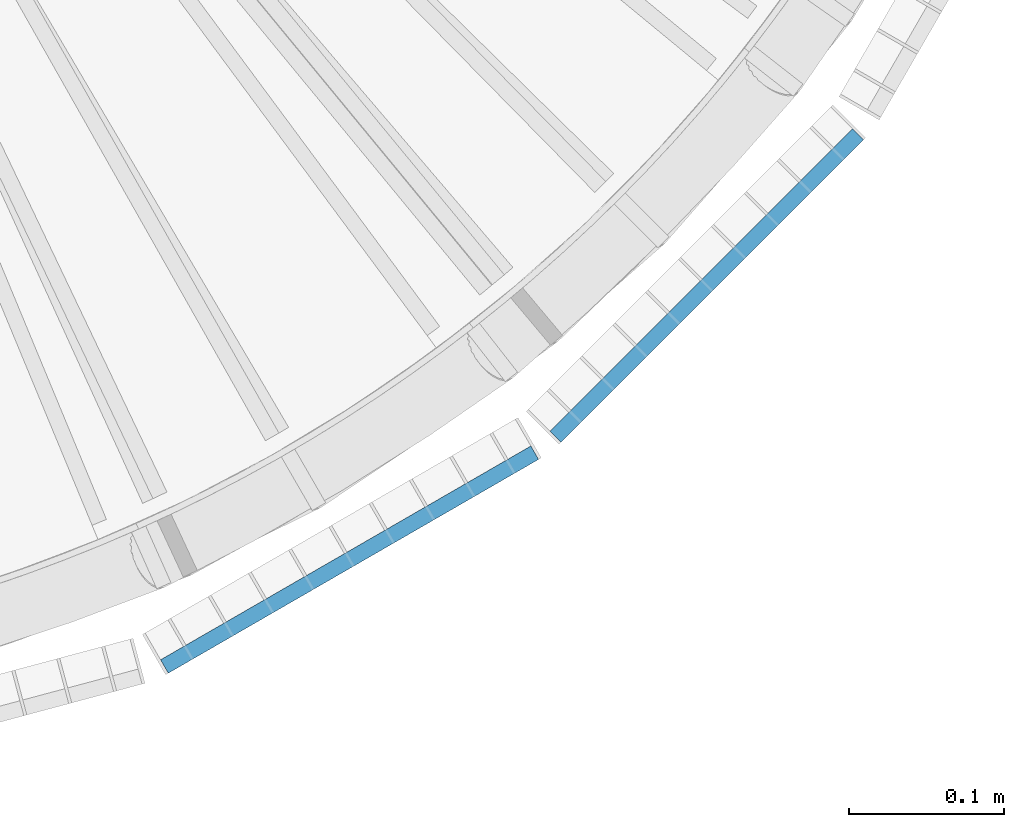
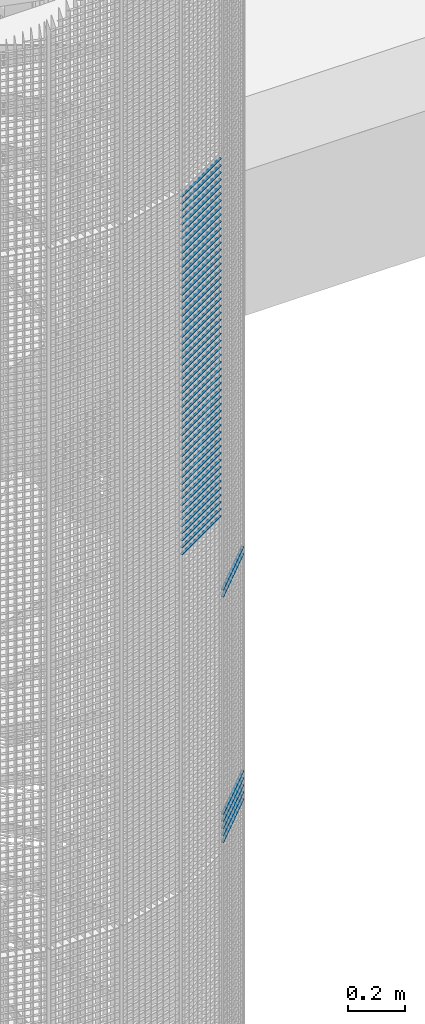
# One storey, part 255 of 1183: 59 beams, 2 elements without a shape of their own.
"""IFC2X3 building model written with IfcOpenShell, lengths in millimetres."""

from ifc_helpers import new_model, si_unit, frame, origin_with_axes, origin_2d_with_axis, place, context, subcontext, project, spatial, rectangle, extrude, material, type_object, element, aggregate, save


model = new_model("IFC2X3")

# Units and contexts
model_context = context("Model", 3, precision=1e-05, world=origin_with_axes())
body_context = subcontext(model_context, "Body", "Model", "MODEL_VIEW")
ifc_project = project(units=[si_unit("LENGTHUNIT", "METRE", prefix="MILLI"), si_unit("AREAUNIT", "SQUARE_METRE"), si_unit("VOLUMEUNIT", "CUBIC_METRE"), si_unit("MASSUNIT", "GRAM", prefix="KILO"), si_unit("TIMEUNIT", "SECOND"), si_unit("PLANEANGLEUNIT", "RADIAN"), si_unit("SOLIDANGLEUNIT", "STERADIAN"), si_unit("THERMODYNAMICTEMPERATUREUNIT", "DEGREE_CELSIUS"), si_unit("LUMINOUSINTENSITYUNIT", "LUMEN")], contexts=[model_context])

# Site, building, storey
site_placement = place(None, origin_with_axes())
site = spatial("IfcSite", under=ifc_project, at=site_placement, Name="Undefined", CompositionType="ELEMENT")
building_placement = place(site_placement, origin_with_axes())
building = spatial("IfcBuilding", under=site, at=building_placement, Name="Undefined", CompositionType="ELEMENT")
storey_placement = place(building_placement, origin_with_axes())
storey = spatial("IfcBuildingStorey", under=building, at=storey_placement, Name="Undefined", CompositionType="ELEMENT", Elevation=0.0)

# Assembly, beams
assembly_1_placement = place(storey_placement, origin_with_axes())
assembly_1 = element("IfcElementAssembly", 1, at=assembly_1_placement, inside=storey, Name="BORDURE", AssemblyPlace="NOTDEFINED", PredefinedType="NOTDEFINED")
ifc_material = material(Name="STEEL/S235JR")
beam_type = type_object("IfcBeamType", Name="PL2*10", PredefinedType="NOTDEFINED")
beam_1_placement = place(assembly_1_placement, frame((689.771348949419, -884.927168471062, 6150.0), z_axis=(0.707106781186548, -0.707106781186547, 0.0), x_axis=(0.707106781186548, 0.707106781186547, 0.0)))
beam_1 = element("IfcBeam", 2, at=beam_1_placement, type_object=beam_type, material=ifc_material, Name="ENTRETOISE", context=body_context, shape_type="SweptSolid", body=[
    extrude(rectangle(XDim=2.0, YDim=10.0, at=origin_2d_with_axis()), frame((275.999999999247, 9.09494701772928e-13, 1.53210777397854e-14), z_axis=(-1.0, 0.0, 0.0), x_axis=(0.0, -1.0, 0.0)), (0.0, 0.0, 1.0), 276.0),
])
beam_2_placement = place(assembly_1_placement, frame((689.771348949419, -884.927168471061, 6120.0), z_axis=(0.707106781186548, -0.707106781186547, 0.0), x_axis=(0.707106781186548, 0.707106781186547, 0.0)))
beam_2 = element("IfcBeam", 3, at=beam_2_placement, type_object=beam_type, material=ifc_material, Name="ENTRETOISE", context=body_context, shape_type="SweptSolid", body=[
    extrude(rectangle(XDim=2.0, YDim=10.0, at=origin_2d_with_axis()), frame((275.999999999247, 9.09494701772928e-13, 1.53210777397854e-14), z_axis=(-1.0, 0.0, 0.0), x_axis=(0.0, -1.0, 0.0)), (0.0, 0.0, 1.0), 276.0),
])
beam_3_placement = place(assembly_1_placement, frame((689.771348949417, -884.927168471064, 7080.0), z_axis=(0.707106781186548, -0.707106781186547, 0.0), x_axis=(0.707106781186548, 0.707106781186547, 0.0)))
beam_3 = element("IfcBeam", 4, at=beam_3_placement, type_object=beam_type, material=ifc_material, Name="ENTRETOISE", context=body_context, shape_type="SweptSolid", body=[
    extrude(rectangle(XDim=2.0, YDim=10.0, at=origin_2d_with_axis()), frame((275.999999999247, 9.09494701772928e-13, 1.53210777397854e-14), z_axis=(-1.0, 0.0, 0.0), x_axis=(0.0, -1.0, 0.0)), (0.0, 0.0, 1.0), 276.0),
])
beam_4_placement = place(assembly_1_placement, frame((689.771348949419, -884.927168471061, 6090.0), z_axis=(0.707106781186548, -0.707106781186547, 0.0), x_axis=(0.707106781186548, 0.707106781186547, 0.0)))
beam_4 = element("IfcBeam", 5, at=beam_4_placement, type_object=beam_type, material=ifc_material, Name="ENTRETOISE", context=body_context, shape_type="SweptSolid", body=[
    extrude(rectangle(XDim=2.0, YDim=10.0, at=origin_2d_with_axis()), frame((275.999999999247, 9.09494701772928e-13, 1.53210777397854e-14), z_axis=(-1.0, 0.0, 0.0), x_axis=(0.0, -1.0, 0.0)), (0.0, 0.0, 1.0), 276.0),
])
beam_5_placement = place(assembly_1_placement, frame((689.771348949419, -884.927168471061, 6060.0), z_axis=(0.707106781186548, -0.707106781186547, 0.0), x_axis=(0.707106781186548, 0.707106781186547, 0.0)))
beam_5 = element("IfcBeam", 6, at=beam_5_placement, type_object=beam_type, material=ifc_material, Name="ENTRETOISE", context=body_context, shape_type="SweptSolid", body=[
    extrude(rectangle(XDim=2.0, YDim=10.0, at=origin_2d_with_axis()), frame((275.999999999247, 9.09494701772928e-13, 1.53210777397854e-14), z_axis=(-1.0, 0.0, 0.0), x_axis=(0.0, -1.0, 0.0)), (0.0, 0.0, 1.0), 276.0),
])
beam_6_placement = place(assembly_1_placement, frame((689.771348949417, -884.927168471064, 7110.0), z_axis=(0.707106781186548, -0.707106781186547, 0.0), x_axis=(0.707106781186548, 0.707106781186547, 0.0)))
beam_6 = element("IfcBeam", 7, at=beam_6_placement, type_object=beam_type, material=ifc_material, Name="ENTRETOISE", context=body_context, shape_type="SweptSolid", body=[
    extrude(rectangle(XDim=2.0, YDim=10.0, at=origin_2d_with_axis()), frame((275.999999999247, 9.09494701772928e-13, 1.53210777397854e-14), z_axis=(-1.0, 0.0, 0.0), x_axis=(0.0, -1.0, 0.0)), (0.0, 0.0, 1.0), 276.0),
])
beam_7_placement = place(assembly_1_placement, frame((689.77134894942, -884.92716847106, 6030.0), z_axis=(0.707106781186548, -0.707106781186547, 0.0), x_axis=(0.707106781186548, 0.707106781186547, 0.0)))
beam_7 = element("IfcBeam", 8, at=beam_7_placement, type_object=beam_type, material=ifc_material, Name="ENTRETOISE", context=body_context, shape_type="SweptSolid", body=[
    extrude(rectangle(XDim=2.0, YDim=10.0, at=origin_2d_with_axis()), frame((275.999999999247, 9.09494701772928e-13, 1.53210777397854e-14), z_axis=(-1.0, 0.0, 0.0), x_axis=(0.0, -1.0, 0.0)), (0.0, 0.0, 1.0), 276.0),
])
aggregate(assembly_1, [beam_1, beam_2, beam_3, beam_4, beam_5, beam_6, beam_7])

assembly_2_placement = place(storey_placement, origin_with_axes())
assembly_2 = element("IfcElementAssembly", 9, at=assembly_2_placement, inside=storey, Name="BORDURE", AssemblyPlace="NOTDEFINED", PredefinedType="NOTDEFINED")
beam_8_placement = place(assembly_2_placement, frame((437.231955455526, -1033.29996828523, 8970.0), z_axis=(0.499999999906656, -0.866025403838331, 0.0), x_axis=(0.866025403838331, 0.499999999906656, 0.0)))
beam_8 = element("IfcBeam", 10, at=beam_8_placement, type_object=beam_type, material=ifc_material, Name="ENTRETOISE", context=body_context, shape_type="SweptSolid", body=[
    extrude(rectangle(XDim=2.0, YDim=10.0, at=origin_2d_with_axis()), frame((275.999999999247, 9.09494701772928e-13, 1.53210777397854e-14), z_axis=(-1.0, 0.0, 0.0), x_axis=(0.0, -1.0, 0.0)), (0.0, 0.0, 1.0), 276.0),
])
beam_9_placement = place(assembly_2_placement, frame((437.231955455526, -1033.29996828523, 8940.0), z_axis=(0.499999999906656, -0.866025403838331, 0.0), x_axis=(0.866025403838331, 0.499999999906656, 0.0)))
beam_9 = element("IfcBeam", 11, at=beam_9_placement, type_object=beam_type, material=ifc_material, Name="ENTRETOISE", context=body_context, shape_type="SweptSolid", body=[
    extrude(rectangle(XDim=2.0, YDim=10.0, at=origin_2d_with_axis()), frame((275.999999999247, 9.09494701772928e-13, 1.53210777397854e-14), z_axis=(-1.0, 0.0, 0.0), x_axis=(0.0, -1.0, 0.0)), (0.0, 0.0, 1.0), 276.0),
])
beam_10_placement = place(assembly_2_placement, frame((437.231955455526, -1033.29996828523, 8910.0), z_axis=(0.499999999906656, -0.866025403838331, 0.0), x_axis=(0.866025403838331, 0.499999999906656, 0.0)))
beam_10 = element("IfcBeam", 12, at=beam_10_placement, type_object=beam_type, material=ifc_material, Name="ENTRETOISE", context=body_context, shape_type="SweptSolid", body=[
    extrude(rectangle(XDim=2.0, YDim=10.0, at=origin_2d_with_axis()), frame((275.999999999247, 9.09494701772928e-13, 1.53210777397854e-14), z_axis=(-1.0, 0.0, 0.0), x_axis=(0.0, -1.0, 0.0)), (0.0, 0.0, 1.0), 276.0),
])
beam_11_placement = place(assembly_2_placement, frame((437.231955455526, -1033.29996828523, 8880.0), z_axis=(0.499999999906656, -0.866025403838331, 0.0), x_axis=(0.866025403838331, 0.499999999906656, 0.0)))
beam_11 = element("IfcBeam", 13, at=beam_11_placement, type_object=beam_type, material=ifc_material, Name="ENTRETOISE", context=body_context, shape_type="SweptSolid", body=[
    extrude(rectangle(XDim=2.0, YDim=10.0, at=origin_2d_with_axis()), frame((275.999999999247, 9.09494701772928e-13, 1.53210777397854e-14), z_axis=(-1.0, 0.0, 0.0), x_axis=(0.0, -1.0, 0.0)), (0.0, 0.0, 1.0), 276.0),
])
beam_12_placement = place(assembly_2_placement, frame((437.231955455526, -1033.29996828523, 8850.0), z_axis=(0.499999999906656, -0.866025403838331, 0.0), x_axis=(0.866025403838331, 0.499999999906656, 0.0)))
beam_12 = element("IfcBeam", 14, at=beam_12_placement, type_object=beam_type, material=ifc_material, Name="ENTRETOISE", context=body_context, shape_type="SweptSolid", body=[
    extrude(rectangle(XDim=2.0, YDim=10.0, at=origin_2d_with_axis()), frame((275.999999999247, 9.09494701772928e-13, 1.53210777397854e-14), z_axis=(-1.0, 0.0, 0.0), x_axis=(0.0, -1.0, 0.0)), (0.0, 0.0, 1.0), 276.0),
])
beam_13_placement = place(assembly_2_placement, frame((437.231955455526, -1033.29996828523, 8820.0), z_axis=(0.499999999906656, -0.866025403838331, 0.0), x_axis=(0.866025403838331, 0.499999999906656, 0.0)))
beam_13 = element("IfcBeam", 15, at=beam_13_placement, type_object=beam_type, material=ifc_material, Name="ENTRETOISE", context=body_context, shape_type="SweptSolid", body=[
    extrude(rectangle(XDim=2.0, YDim=10.0, at=origin_2d_with_axis()), frame((275.999999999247, 9.09494701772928e-13, 1.53210777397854e-14), z_axis=(-1.0, 0.0, 0.0), x_axis=(0.0, -1.0, 0.0)), (0.0, 0.0, 1.0), 276.0),
])
beam_14_placement = place(assembly_2_placement, frame((437.231955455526, -1033.29996828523, 8790.0), z_axis=(0.499999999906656, -0.866025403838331, 0.0), x_axis=(0.866025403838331, 0.499999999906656, 0.0)))
beam_14 = element("IfcBeam", 16, at=beam_14_placement, type_object=beam_type, material=ifc_material, Name="ENTRETOISE", context=body_context, shape_type="SweptSolid", body=[
    extrude(rectangle(XDim=2.0, YDim=10.0, at=origin_2d_with_axis()), frame((275.999999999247, 9.09494701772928e-13, 1.53210777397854e-14), z_axis=(-1.0, 0.0, 0.0), x_axis=(0.0, -1.0, 0.0)), (0.0, 0.0, 1.0), 276.0),
])
beam_15_placement = place(assembly_2_placement, frame((437.231955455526, -1033.29996828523, 8760.0), z_axis=(0.499999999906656, -0.866025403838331, 0.0), x_axis=(0.866025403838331, 0.499999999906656, 0.0)))
beam_15 = element("IfcBeam", 17, at=beam_15_placement, type_object=beam_type, material=ifc_material, Name="ENTRETOISE", context=body_context, shape_type="SweptSolid", body=[
    extrude(rectangle(XDim=2.0, YDim=10.0, at=origin_2d_with_axis()), frame((275.999999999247, 9.09494701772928e-13, 1.53210777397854e-14), z_axis=(-1.0, 0.0, 0.0), x_axis=(0.0, -1.0, 0.0)), (0.0, 0.0, 1.0), 276.0),
])
beam_16_placement = place(assembly_2_placement, frame((437.231955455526, -1033.29996828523, 8730.0), z_axis=(0.499999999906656, -0.866025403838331, 0.0), x_axis=(0.866025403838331, 0.499999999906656, 0.0)))
beam_16 = element("IfcBeam", 18, at=beam_16_placement, type_object=beam_type, material=ifc_material, Name="ENTRETOISE", context=body_context, shape_type="SweptSolid", body=[
    extrude(rectangle(XDim=2.0, YDim=10.0, at=origin_2d_with_axis()), frame((275.999999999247, 9.09494701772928e-13, 1.53210777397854e-14), z_axis=(-1.0, 0.0, 0.0), x_axis=(0.0, -1.0, 0.0)), (0.0, 0.0, 1.0), 276.0),
])
beam_17_placement = place(assembly_2_placement, frame((437.231955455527, -1033.29996828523, 8700.0), z_axis=(0.499999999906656, -0.866025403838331, 0.0), x_axis=(0.866025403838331, 0.499999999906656, 0.0)))
beam_17 = element("IfcBeam", 19, at=beam_17_placement, type_object=beam_type, material=ifc_material, Name="ENTRETOISE", context=body_context, shape_type="SweptSolid", body=[
    extrude(rectangle(XDim=2.0, YDim=10.0, at=origin_2d_with_axis()), frame((275.999999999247, 9.09494701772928e-13, 1.53210777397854e-14), z_axis=(-1.0, 0.0, 0.0), x_axis=(0.0, -1.0, 0.0)), (0.0, 0.0, 1.0), 276.0),
])
beam_18_placement = place(assembly_2_placement, frame((437.231955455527, -1033.29996828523, 8670.0), z_axis=(0.499999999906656, -0.866025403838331, 0.0), x_axis=(0.866025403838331, 0.499999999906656, 0.0)))
beam_18 = element("IfcBeam", 20, at=beam_18_placement, type_object=beam_type, material=ifc_material, Name="ENTRETOISE", context=body_context, shape_type="SweptSolid", body=[
    extrude(rectangle(XDim=2.0, YDim=10.0, at=origin_2d_with_axis()), frame((275.999999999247, 9.09494701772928e-13, 1.53210777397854e-14), z_axis=(-1.0, 0.0, 0.0), x_axis=(0.0, -1.0, 0.0)), (0.0, 0.0, 1.0), 276.0),
])
beam_19_placement = place(assembly_2_placement, frame((437.231955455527, -1033.29996828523, 8640.0), z_axis=(0.499999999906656, -0.866025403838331, 0.0), x_axis=(0.866025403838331, 0.499999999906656, 0.0)))
beam_19 = element("IfcBeam", 21, at=beam_19_placement, type_object=beam_type, material=ifc_material, Name="ENTRETOISE", context=body_context, shape_type="SweptSolid", body=[
    extrude(rectangle(XDim=2.0, YDim=10.0, at=origin_2d_with_axis()), frame((275.999999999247, 9.09494701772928e-13, 1.53210777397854e-14), z_axis=(-1.0, 0.0, 0.0), x_axis=(0.0, -1.0, 0.0)), (0.0, 0.0, 1.0), 276.0),
])
beam_20_placement = place(assembly_2_placement, frame((437.231955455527, -1033.29996828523, 8610.0), z_axis=(0.499999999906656, -0.866025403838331, 0.0), x_axis=(0.866025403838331, 0.499999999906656, 0.0)))
beam_20 = element("IfcBeam", 22, at=beam_20_placement, type_object=beam_type, material=ifc_material, Name="ENTRETOISE", context=body_context, shape_type="SweptSolid", body=[
    extrude(rectangle(XDim=2.0, YDim=10.0, at=origin_2d_with_axis()), frame((275.999999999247, 9.09494701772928e-13, 1.53210777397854e-14), z_axis=(-1.0, 0.0, 0.0), x_axis=(0.0, -1.0, 0.0)), (0.0, 0.0, 1.0), 276.0),
])
beam_21_placement = place(assembly_2_placement, frame((437.231955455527, -1033.29996828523, 8580.0), z_axis=(0.499999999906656, -0.866025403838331, 0.0), x_axis=(0.866025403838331, 0.499999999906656, 0.0)))
beam_21 = element("IfcBeam", 23, at=beam_21_placement, type_object=beam_type, material=ifc_material, Name="ENTRETOISE", context=body_context, shape_type="SweptSolid", body=[
    extrude(rectangle(XDim=2.0, YDim=10.0, at=origin_2d_with_axis()), frame((275.999999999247, 9.09494701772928e-13, 1.53210777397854e-14), z_axis=(-1.0, 0.0, 0.0), x_axis=(0.0, -1.0, 0.0)), (0.0, 0.0, 1.0), 276.0),
])
beam_22_placement = place(assembly_2_placement, frame((437.231955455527, -1033.29996828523, 8550.0), z_axis=(0.499999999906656, -0.866025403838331, 0.0), x_axis=(0.866025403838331, 0.499999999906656, 0.0)))
beam_22 = element("IfcBeam", 24, at=beam_22_placement, type_object=beam_type, material=ifc_material, Name="ENTRETOISE", context=body_context, shape_type="SweptSolid", body=[
    extrude(rectangle(XDim=2.0, YDim=10.0, at=origin_2d_with_axis()), frame((275.999999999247, 9.09494701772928e-13, 1.53210777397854e-14), z_axis=(-1.0, 0.0, 0.0), x_axis=(0.0, -1.0, 0.0)), (0.0, 0.0, 1.0), 276.0),
])
beam_23_placement = place(assembly_2_placement, frame((437.231955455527, -1033.29996828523, 8520.0), z_axis=(0.499999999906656, -0.866025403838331, 0.0), x_axis=(0.866025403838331, 0.499999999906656, 0.0)))
beam_23 = element("IfcBeam", 25, at=beam_23_placement, type_object=beam_type, material=ifc_material, Name="ENTRETOISE", context=body_context, shape_type="SweptSolid", body=[
    extrude(rectangle(XDim=2.0, YDim=10.0, at=origin_2d_with_axis()), frame((275.999999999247, 9.09494701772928e-13, 1.53210777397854e-14), z_axis=(-1.0, 0.0, 0.0), x_axis=(0.0, -1.0, 0.0)), (0.0, 0.0, 1.0), 276.0),
])
beam_24_placement = place(assembly_2_placement, frame((437.231955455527, -1033.29996828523, 8490.0), z_axis=(0.499999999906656, -0.866025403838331, 0.0), x_axis=(0.866025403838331, 0.499999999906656, 0.0)))
beam_24 = element("IfcBeam", 26, at=beam_24_placement, type_object=beam_type, material=ifc_material, Name="ENTRETOISE", context=body_context, shape_type="SweptSolid", body=[
    extrude(rectangle(XDim=2.0, YDim=10.0, at=origin_2d_with_axis()), frame((275.999999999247, 9.09494701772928e-13, 1.53210777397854e-14), z_axis=(-1.0, 0.0, 0.0), x_axis=(0.0, -1.0, 0.0)), (0.0, 0.0, 1.0), 276.0),
])
beam_25_placement = place(assembly_2_placement, frame((437.231955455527, -1033.29996828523, 8460.0), z_axis=(0.499999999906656, -0.866025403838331, 0.0), x_axis=(0.866025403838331, 0.499999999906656, 0.0)))
beam_25 = element("IfcBeam", 27, at=beam_25_placement, type_object=beam_type, material=ifc_material, Name="ENTRETOISE", context=body_context, shape_type="SweptSolid", body=[
    extrude(rectangle(XDim=2.0, YDim=10.0, at=origin_2d_with_axis()), frame((275.999999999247, 9.09494701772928e-13, 1.53210777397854e-14), z_axis=(-1.0, 0.0, 0.0), x_axis=(0.0, -1.0, 0.0)), (0.0, 0.0, 1.0), 276.0),
])
beam_26_placement = place(assembly_2_placement, frame((437.231955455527, -1033.29996828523, 8430.0), z_axis=(0.499999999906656, -0.866025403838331, 0.0), x_axis=(0.866025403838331, 0.499999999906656, 0.0)))
beam_26 = element("IfcBeam", 28, at=beam_26_placement, type_object=beam_type, material=ifc_material, Name="ENTRETOISE", context=body_context, shape_type="SweptSolid", body=[
    extrude(rectangle(XDim=2.0, YDim=10.0, at=origin_2d_with_axis()), frame((275.999999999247, 9.09494701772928e-13, 1.53210777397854e-14), z_axis=(-1.0, 0.0, 0.0), x_axis=(0.0, -1.0, 0.0)), (0.0, 0.0, 1.0), 276.0),
])
beam_27_placement = place(assembly_2_placement, frame((437.231955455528, -1033.29996828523, 8400.0), z_axis=(0.499999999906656, -0.866025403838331, 0.0), x_axis=(0.866025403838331, 0.499999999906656, 0.0)))
beam_27 = element("IfcBeam", 29, at=beam_27_placement, type_object=beam_type, material=ifc_material, Name="ENTRETOISE", context=body_context, shape_type="SweptSolid", body=[
    extrude(rectangle(XDim=2.0, YDim=10.0, at=origin_2d_with_axis()), frame((275.999999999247, 9.09494701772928e-13, 1.53210777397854e-14), z_axis=(-1.0, 0.0, 0.0), x_axis=(0.0, -1.0, 0.0)), (0.0, 0.0, 1.0), 276.0),
])
beam_28_placement = place(assembly_2_placement, frame((437.231955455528, -1033.29996828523, 8370.0), z_axis=(0.499999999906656, -0.866025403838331, 0.0), x_axis=(0.866025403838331, 0.499999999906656, 0.0)))
beam_28 = element("IfcBeam", 30, at=beam_28_placement, type_object=beam_type, material=ifc_material, Name="ENTRETOISE", context=body_context, shape_type="SweptSolid", body=[
    extrude(rectangle(XDim=2.0, YDim=10.0, at=origin_2d_with_axis()), frame((275.999999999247, 9.09494701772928e-13, 1.53210777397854e-14), z_axis=(-1.0, 0.0, 0.0), x_axis=(0.0, -1.0, 0.0)), (0.0, 0.0, 1.0), 276.0),
])
beam_29_placement = place(assembly_2_placement, frame((437.231955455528, -1033.29996828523, 8340.0), z_axis=(0.499999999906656, -0.866025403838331, 0.0), x_axis=(0.866025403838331, 0.499999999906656, 0.0)))
beam_29 = element("IfcBeam", 31, at=beam_29_placement, type_object=beam_type, material=ifc_material, Name="ENTRETOISE", context=body_context, shape_type="SweptSolid", body=[
    extrude(rectangle(XDim=2.0, YDim=10.0, at=origin_2d_with_axis()), frame((275.999999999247, 9.09494701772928e-13, 1.53210777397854e-14), z_axis=(-1.0, 0.0, 0.0), x_axis=(0.0, -1.0, 0.0)), (0.0, 0.0, 1.0), 276.0),
])
beam_30_placement = place(assembly_2_placement, frame((437.231955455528, -1033.29996828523, 8310.0), z_axis=(0.499999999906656, -0.866025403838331, 0.0), x_axis=(0.866025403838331, 0.499999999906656, 0.0)))
beam_30 = element("IfcBeam", 32, at=beam_30_placement, type_object=beam_type, material=ifc_material, Name="ENTRETOISE", context=body_context, shape_type="SweptSolid", body=[
    extrude(rectangle(XDim=2.0, YDim=10.0, at=origin_2d_with_axis()), frame((275.999999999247, 9.09494701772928e-13, 1.53210777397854e-14), z_axis=(-1.0, 0.0, 0.0), x_axis=(0.0, -1.0, 0.0)), (0.0, 0.0, 1.0), 276.0),
])
beam_31_placement = place(assembly_2_placement, frame((437.231955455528, -1033.29996828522, 8280.0), z_axis=(0.499999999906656, -0.866025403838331, 0.0), x_axis=(0.866025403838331, 0.499999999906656, 0.0)))
beam_31 = element("IfcBeam", 33, at=beam_31_placement, type_object=beam_type, material=ifc_material, Name="ENTRETOISE", context=body_context, shape_type="SweptSolid", body=[
    extrude(rectangle(XDim=2.0, YDim=10.0, at=origin_2d_with_axis()), frame((275.999999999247, 9.09494701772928e-13, 1.53210777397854e-14), z_axis=(-1.0, 0.0, 0.0), x_axis=(0.0, -1.0, 0.0)), (0.0, 0.0, 1.0), 276.0),
])
beam_32_placement = place(assembly_2_placement, frame((437.231955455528, -1033.29996828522, 8250.0), z_axis=(0.499999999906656, -0.866025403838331, 0.0), x_axis=(0.866025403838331, 0.499999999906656, 0.0)))
beam_32 = element("IfcBeam", 34, at=beam_32_placement, type_object=beam_type, material=ifc_material, Name="ENTRETOISE", context=body_context, shape_type="SweptSolid", body=[
    extrude(rectangle(XDim=2.0, YDim=10.0, at=origin_2d_with_axis()), frame((275.999999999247, 9.09494701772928e-13, 1.53210777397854e-14), z_axis=(-1.0, 0.0, 0.0), x_axis=(0.0, -1.0, 0.0)), (0.0, 0.0, 1.0), 276.0),
])
beam_33_placement = place(assembly_2_placement, frame((437.231955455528, -1033.29996828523, 8220.0), z_axis=(0.499999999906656, -0.866025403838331, 0.0), x_axis=(0.866025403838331, 0.499999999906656, 0.0)))
beam_33 = element("IfcBeam", 35, at=beam_33_placement, type_object=beam_type, material=ifc_material, Name="ENTRETOISE", context=body_context, shape_type="SweptSolid", body=[
    extrude(rectangle(XDim=2.0, YDim=10.0, at=origin_2d_with_axis()), frame((275.999999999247, 9.09494701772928e-13, 1.53210777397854e-14), z_axis=(-1.0, 0.0, 0.0), x_axis=(0.0, -1.0, 0.0)), (0.0, 0.0, 1.0), 276.0),
])
beam_34_placement = place(assembly_2_placement, frame((437.231955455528, -1033.29996828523, 8190.0), z_axis=(0.499999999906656, -0.866025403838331, 0.0), x_axis=(0.866025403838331, 0.499999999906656, 0.0)))
beam_34 = element("IfcBeam", 36, at=beam_34_placement, type_object=beam_type, material=ifc_material, Name="ENTRETOISE", context=body_context, shape_type="SweptSolid", body=[
    extrude(rectangle(XDim=2.0, YDim=10.0, at=origin_2d_with_axis()), frame((275.999999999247, 9.09494701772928e-13, 1.53210777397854e-14), z_axis=(-1.0, 0.0, 0.0), x_axis=(0.0, -1.0, 0.0)), (0.0, 0.0, 1.0), 276.0),
])
beam_35_placement = place(assembly_2_placement, frame((437.231955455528, -1033.29996828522, 8160.0), z_axis=(0.499999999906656, -0.866025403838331, 0.0), x_axis=(0.866025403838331, 0.499999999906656, 0.0)))
beam_35 = element("IfcBeam", 37, at=beam_35_placement, type_object=beam_type, material=ifc_material, Name="ENTRETOISE", context=body_context, shape_type="SweptSolid", body=[
    extrude(rectangle(XDim=2.0, YDim=10.0, at=origin_2d_with_axis()), frame((275.999999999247, 9.09494701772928e-13, 1.53210777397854e-14), z_axis=(-1.0, 0.0, 0.0), x_axis=(0.0, -1.0, 0.0)), (0.0, 0.0, 1.0), 276.0),
])
beam_36_placement = place(assembly_2_placement, frame((437.231955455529, -1033.29996828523, 8130.0), z_axis=(0.499999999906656, -0.866025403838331, 0.0), x_axis=(0.866025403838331, 0.499999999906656, 0.0)))
beam_36 = element("IfcBeam", 38, at=beam_36_placement, type_object=beam_type, material=ifc_material, Name="ENTRETOISE", context=body_context, shape_type="SweptSolid", body=[
    extrude(rectangle(XDim=2.0, YDim=10.0, at=origin_2d_with_axis()), frame((275.999999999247, 9.09494701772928e-13, 1.53210777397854e-14), z_axis=(-1.0, 0.0, 0.0), x_axis=(0.0, -1.0, 0.0)), (0.0, 0.0, 1.0), 276.0),
])
beam_37_placement = place(assembly_2_placement, frame((437.231955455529, -1033.29996828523, 8100.0), z_axis=(0.499999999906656, -0.866025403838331, 0.0), x_axis=(0.866025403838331, 0.499999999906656, 0.0)))
beam_37 = element("IfcBeam", 39, at=beam_37_placement, type_object=beam_type, material=ifc_material, Name="ENTRETOISE", context=body_context, shape_type="SweptSolid", body=[
    extrude(rectangle(XDim=2.0, YDim=10.0, at=origin_2d_with_axis()), frame((275.999999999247, 9.09494701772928e-13, 1.53210777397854e-14), z_axis=(-1.0, 0.0, 0.0), x_axis=(0.0, -1.0, 0.0)), (0.0, 0.0, 1.0), 276.0),
])
beam_38_placement = place(assembly_2_placement, frame((437.231955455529, -1033.29996828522, 8070.0), z_axis=(0.499999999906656, -0.866025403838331, 0.0), x_axis=(0.866025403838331, 0.499999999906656, 0.0)))
beam_38 = element("IfcBeam", 40, at=beam_38_placement, type_object=beam_type, material=ifc_material, Name="ENTRETOISE", context=body_context, shape_type="SweptSolid", body=[
    extrude(rectangle(XDim=2.0, YDim=10.0, at=origin_2d_with_axis()), frame((275.999999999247, 9.09494701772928e-13, 1.53210777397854e-14), z_axis=(-1.0, 0.0, 0.0), x_axis=(0.0, -1.0, 0.0)), (0.0, 0.0, 1.0), 276.0),
])
beam_39_placement = place(assembly_2_placement, frame((437.231955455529, -1033.29996828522, 8040.0), z_axis=(0.499999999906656, -0.866025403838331, 0.0), x_axis=(0.866025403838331, 0.499999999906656, 0.0)))
beam_39 = element("IfcBeam", 41, at=beam_39_placement, type_object=beam_type, material=ifc_material, Name="ENTRETOISE", context=body_context, shape_type="SweptSolid", body=[
    extrude(rectangle(XDim=2.0, YDim=10.0, at=origin_2d_with_axis()), frame((275.999999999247, 9.09494701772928e-13, 1.53210777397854e-14), z_axis=(-1.0, 0.0, 0.0), x_axis=(0.0, -1.0, 0.0)), (0.0, 0.0, 1.0), 276.0),
])
beam_40_placement = place(assembly_2_placement, frame((437.231955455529, -1033.29996828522, 8010.0), z_axis=(0.499999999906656, -0.866025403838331, 0.0), x_axis=(0.866025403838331, 0.499999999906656, 0.0)))
beam_40 = element("IfcBeam", 42, at=beam_40_placement, type_object=beam_type, material=ifc_material, Name="ENTRETOISE", context=body_context, shape_type="SweptSolid", body=[
    extrude(rectangle(XDim=2.0, YDim=10.0, at=origin_2d_with_axis()), frame((275.999999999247, 9.09494701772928e-13, 1.53210777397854e-14), z_axis=(-1.0, 0.0, 0.0), x_axis=(0.0, -1.0, 0.0)), (0.0, 0.0, 1.0), 276.0),
])
beam_41_placement = place(assembly_2_placement, frame((437.231955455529, -1033.29996828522, 7980.0), z_axis=(0.499999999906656, -0.866025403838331, 0.0), x_axis=(0.866025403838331, 0.499999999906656, 0.0)))
beam_41 = element("IfcBeam", 43, at=beam_41_placement, type_object=beam_type, material=ifc_material, Name="ENTRETOISE", context=body_context, shape_type="SweptSolid", body=[
    extrude(rectangle(XDim=2.0, YDim=10.0, at=origin_2d_with_axis()), frame((275.999999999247, 9.09494701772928e-13, 1.53210777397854e-14), z_axis=(-1.0, 0.0, 0.0), x_axis=(0.0, -1.0, 0.0)), (0.0, 0.0, 1.0), 276.0),
])
beam_42_placement = place(assembly_2_placement, frame((437.231955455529, -1033.29996828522, 7950.0), z_axis=(0.499999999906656, -0.866025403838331, 0.0), x_axis=(0.866025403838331, 0.499999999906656, 0.0)))
beam_42 = element("IfcBeam", 44, at=beam_42_placement, type_object=beam_type, material=ifc_material, Name="ENTRETOISE", context=body_context, shape_type="SweptSolid", body=[
    extrude(rectangle(XDim=2.0, YDim=10.0, at=origin_2d_with_axis()), frame((275.999999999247, 9.09494701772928e-13, 1.53210777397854e-14), z_axis=(-1.0, 0.0, 0.0), x_axis=(0.0, -1.0, 0.0)), (0.0, 0.0, 1.0), 276.0),
])
beam_43_placement = place(assembly_2_placement, frame((437.231955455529, -1033.29996828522, 7920.0), z_axis=(0.499999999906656, -0.866025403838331, 0.0), x_axis=(0.866025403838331, 0.499999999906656, 0.0)))
beam_43 = element("IfcBeam", 45, at=beam_43_placement, type_object=beam_type, material=ifc_material, Name="ENTRETOISE", context=body_context, shape_type="SweptSolid", body=[
    extrude(rectangle(XDim=2.0, YDim=10.0, at=origin_2d_with_axis()), frame((275.999999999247, 9.09494701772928e-13, 1.53210777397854e-14), z_axis=(-1.0, 0.0, 0.0), x_axis=(0.0, -1.0, 0.0)), (0.0, 0.0, 1.0), 276.0),
])
beam_44_placement = place(assembly_2_placement, frame((437.231955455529, -1033.29996828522, 7890.0), z_axis=(0.499999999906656, -0.866025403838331, 0.0), x_axis=(0.866025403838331, 0.499999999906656, 0.0)))
beam_44 = element("IfcBeam", 46, at=beam_44_placement, type_object=beam_type, material=ifc_material, Name="ENTRETOISE", context=body_context, shape_type="SweptSolid", body=[
    extrude(rectangle(XDim=2.0, YDim=10.0, at=origin_2d_with_axis()), frame((275.999999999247, 9.09494701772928e-13, 1.53210777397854e-14), z_axis=(-1.0, 0.0, 0.0), x_axis=(0.0, -1.0, 0.0)), (0.0, 0.0, 1.0), 276.0),
])
beam_45_placement = place(assembly_2_placement, frame((437.231955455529, -1033.29996828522, 7860.0), z_axis=(0.499999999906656, -0.866025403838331, 0.0), x_axis=(0.866025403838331, 0.499999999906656, 0.0)))
beam_45 = element("IfcBeam", 47, at=beam_45_placement, type_object=beam_type, material=ifc_material, Name="ENTRETOISE", context=body_context, shape_type="SweptSolid", body=[
    extrude(rectangle(XDim=2.0, YDim=10.0, at=origin_2d_with_axis()), frame((275.999999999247, 9.09494701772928e-13, 1.53210777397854e-14), z_axis=(-1.0, 0.0, 0.0), x_axis=(0.0, -1.0, 0.0)), (0.0, 0.0, 1.0), 276.0),
])
beam_46_placement = place(assembly_2_placement, frame((437.231955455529, -1033.29996828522, 7830.0), z_axis=(0.499999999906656, -0.866025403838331, 0.0), x_axis=(0.866025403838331, 0.499999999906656, 0.0)))
beam_46 = element("IfcBeam", 48, at=beam_46_placement, type_object=beam_type, material=ifc_material, Name="ENTRETOISE", context=body_context, shape_type="SweptSolid", body=[
    extrude(rectangle(XDim=2.0, YDim=10.0, at=origin_2d_with_axis()), frame((275.999999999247, 9.09494701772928e-13, 1.53210777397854e-14), z_axis=(-1.0, 0.0, 0.0), x_axis=(0.0, -1.0, 0.0)), (0.0, 0.0, 1.0), 276.0),
])
beam_47_placement = place(assembly_2_placement, frame((437.231955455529, -1033.29996828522, 7800.0), z_axis=(0.499999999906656, -0.866025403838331, 0.0), x_axis=(0.866025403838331, 0.499999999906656, 0.0)))
beam_47 = element("IfcBeam", 49, at=beam_47_placement, type_object=beam_type, material=ifc_material, Name="ENTRETOISE", context=body_context, shape_type="SweptSolid", body=[
    extrude(rectangle(XDim=2.0, YDim=10.0, at=origin_2d_with_axis()), frame((275.999999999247, 9.09494701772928e-13, 1.53210777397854e-14), z_axis=(-1.0, 0.0, 0.0), x_axis=(0.0, -1.0, 0.0)), (0.0, 0.0, 1.0), 276.0),
])
beam_48_placement = place(assembly_2_placement, frame((437.231955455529, -1033.29996828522, 7770.0), z_axis=(0.499999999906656, -0.866025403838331, 0.0), x_axis=(0.866025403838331, 0.499999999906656, 0.0)))
beam_48 = element("IfcBeam", 50, at=beam_48_placement, type_object=beam_type, material=ifc_material, Name="ENTRETOISE", context=body_context, shape_type="SweptSolid", body=[
    extrude(rectangle(XDim=2.0, YDim=10.0, at=origin_2d_with_axis()), frame((275.999999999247, 9.09494701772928e-13, 1.53210777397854e-14), z_axis=(-1.0, 0.0, 0.0), x_axis=(0.0, -1.0, 0.0)), (0.0, 0.0, 1.0), 276.0),
])
beam_49_placement = place(assembly_2_placement, frame((437.23195545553, -1033.29996828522, 7740.0), z_axis=(0.499999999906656, -0.866025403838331, 0.0), x_axis=(0.866025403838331, 0.499999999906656, 0.0)))
beam_49 = element("IfcBeam", 51, at=beam_49_placement, type_object=beam_type, material=ifc_material, Name="ENTRETOISE", context=body_context, shape_type="SweptSolid", body=[
    extrude(rectangle(XDim=2.0, YDim=10.0, at=origin_2d_with_axis()), frame((275.999999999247, 9.09494701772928e-13, 1.53210777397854e-14), z_axis=(-1.0, 0.0, 0.0), x_axis=(0.0, -1.0, 0.0)), (0.0, 0.0, 1.0), 276.0),
])
beam_50_placement = place(assembly_2_placement, frame((437.23195545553, -1033.29996828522, 7710.0), z_axis=(0.499999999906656, -0.866025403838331, 0.0), x_axis=(0.866025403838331, 0.499999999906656, 0.0)))
beam_50 = element("IfcBeam", 52, at=beam_50_placement, type_object=beam_type, material=ifc_material, Name="ENTRETOISE", context=body_context, shape_type="SweptSolid", body=[
    extrude(rectangle(XDim=2.0, YDim=10.0, at=origin_2d_with_axis()), frame((275.999999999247, 9.09494701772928e-13, 1.53210777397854e-14), z_axis=(-1.0, 0.0, 0.0), x_axis=(0.0, -1.0, 0.0)), (0.0, 0.0, 1.0), 276.0),
])
beam_51_placement = place(assembly_2_placement, frame((437.23195545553, -1033.29996828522, 7680.0), z_axis=(0.499999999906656, -0.866025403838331, 0.0), x_axis=(0.866025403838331, 0.499999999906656, 0.0)))
beam_51 = element("IfcBeam", 53, at=beam_51_placement, type_object=beam_type, material=ifc_material, Name="ENTRETOISE", context=body_context, shape_type="SweptSolid", body=[
    extrude(rectangle(XDim=2.0, YDim=10.0, at=origin_2d_with_axis()), frame((275.999999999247, 9.09494701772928e-13, 1.53210777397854e-14), z_axis=(-1.0, 0.0, 0.0), x_axis=(0.0, -1.0, 0.0)), (0.0, 0.0, 1.0), 276.0),
])
beam_52_placement = place(assembly_2_placement, frame((437.23195545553, -1033.29996828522, 7650.0), z_axis=(0.499999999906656, -0.866025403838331, 0.0), x_axis=(0.866025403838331, 0.499999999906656, 0.0)))
beam_52 = element("IfcBeam", 54, at=beam_52_placement, type_object=beam_type, material=ifc_material, Name="ENTRETOISE", context=body_context, shape_type="SweptSolid", body=[
    extrude(rectangle(XDim=2.0, YDim=10.0, at=origin_2d_with_axis()), frame((275.999999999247, 9.09494701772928e-13, 1.53210777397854e-14), z_axis=(-1.0, 0.0, 0.0), x_axis=(0.0, -1.0, 0.0)), (0.0, 0.0, 1.0), 276.0),
])
beam_53_placement = place(assembly_2_placement, frame((437.23195545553, -1033.29996828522, 7620.0), z_axis=(0.499999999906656, -0.866025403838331, 0.0), x_axis=(0.866025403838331, 0.499999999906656, 0.0)))
beam_53 = element("IfcBeam", 55, at=beam_53_placement, type_object=beam_type, material=ifc_material, Name="ENTRETOISE", context=body_context, shape_type="SweptSolid", body=[
    extrude(rectangle(XDim=2.0, YDim=10.0, at=origin_2d_with_axis()), frame((275.999999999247, 9.09494701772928e-13, 1.53210777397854e-14), z_axis=(-1.0, 0.0, 0.0), x_axis=(0.0, -1.0, 0.0)), (0.0, 0.0, 1.0), 276.0),
])
beam_54_placement = place(assembly_2_placement, frame((437.23195545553, -1033.29996828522, 7590.0), z_axis=(0.499999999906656, -0.866025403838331, 0.0), x_axis=(0.866025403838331, 0.499999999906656, 0.0)))
beam_54 = element("IfcBeam", 56, at=beam_54_placement, type_object=beam_type, material=ifc_material, Name="ENTRETOISE", context=body_context, shape_type="SweptSolid", body=[
    extrude(rectangle(XDim=2.0, YDim=10.0, at=origin_2d_with_axis()), frame((275.999999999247, 9.09494701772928e-13, 1.53210777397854e-14), z_axis=(-1.0, 0.0, 0.0), x_axis=(0.0, -1.0, 0.0)), (0.0, 0.0, 1.0), 276.0),
])
beam_55_placement = place(assembly_2_placement, frame((437.23195545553, -1033.29996828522, 7560.0), z_axis=(0.499999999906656, -0.866025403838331, 0.0), x_axis=(0.866025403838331, 0.499999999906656, 0.0)))
beam_55 = element("IfcBeam", 57, at=beam_55_placement, type_object=beam_type, material=ifc_material, Name="ENTRETOISE", context=body_context, shape_type="SweptSolid", body=[
    extrude(rectangle(XDim=2.0, YDim=10.0, at=origin_2d_with_axis()), frame((275.999999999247, 9.09494701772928e-13, 1.53210777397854e-14), z_axis=(-1.0, 0.0, 0.0), x_axis=(0.0, -1.0, 0.0)), (0.0, 0.0, 1.0), 276.0),
])
beam_56_placement = place(assembly_2_placement, frame((437.23195545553, -1033.29996828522, 7530.0), z_axis=(0.499999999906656, -0.866025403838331, 0.0), x_axis=(0.866025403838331, 0.499999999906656, 0.0)))
beam_56 = element("IfcBeam", 58, at=beam_56_placement, type_object=beam_type, material=ifc_material, Name="ENTRETOISE", context=body_context, shape_type="SweptSolid", body=[
    extrude(rectangle(XDim=2.0, YDim=10.0, at=origin_2d_with_axis()), frame((275.999999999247, 9.09494701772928e-13, 1.53210777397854e-14), z_axis=(-1.0, 0.0, 0.0), x_axis=(0.0, -1.0, 0.0)), (0.0, 0.0, 1.0), 276.0),
])
beam_57_placement = place(assembly_2_placement, frame((437.23195545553, -1033.29996828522, 7500.0), z_axis=(0.499999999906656, -0.866025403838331, 0.0), x_axis=(0.866025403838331, 0.499999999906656, 0.0)))
beam_57 = element("IfcBeam", 59, at=beam_57_placement, type_object=beam_type, material=ifc_material, Name="ENTRETOISE", context=body_context, shape_type="SweptSolid", body=[
    extrude(rectangle(XDim=2.0, YDim=10.0, at=origin_2d_with_axis()), frame((275.999999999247, 9.09494701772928e-13, 1.53210777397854e-14), z_axis=(-1.0, 0.0, 0.0), x_axis=(0.0, -1.0, 0.0)), (0.0, 0.0, 1.0), 276.0),
])
beam_58_placement = place(assembly_2_placement, frame((437.231955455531, -1033.29996828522, 7470.0), z_axis=(0.499999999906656, -0.866025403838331, 0.0), x_axis=(0.866025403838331, 0.499999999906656, 0.0)))
beam_58 = element("IfcBeam", 60, at=beam_58_placement, type_object=beam_type, material=ifc_material, Name="ENTRETOISE", context=body_context, shape_type="SweptSolid", body=[
    extrude(rectangle(XDim=2.0, YDim=10.0, at=origin_2d_with_axis()), frame((275.999999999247, 9.09494701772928e-13, 1.53210777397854e-14), z_axis=(-1.0, 0.0, 0.0), x_axis=(0.0, -1.0, 0.0)), (0.0, 0.0, 1.0), 276.0),
])
beam_59_placement = place(assembly_2_placement, frame((437.231955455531, -1033.29996828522, 7440.0), z_axis=(0.499999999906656, -0.866025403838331, 0.0), x_axis=(0.866025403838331, 0.499999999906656, 0.0)))
beam_59 = element("IfcBeam", 61, at=beam_59_placement, type_object=beam_type, material=ifc_material, Name="ENTRETOISE", context=body_context, shape_type="SweptSolid", body=[
    extrude(rectangle(XDim=2.0, YDim=10.0, at=origin_2d_with_axis()), frame((275.999999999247, 9.09494701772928e-13, 1.53210777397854e-14), z_axis=(-1.0, 0.0, 0.0), x_axis=(0.0, -1.0, 0.0)), (0.0, 0.0, 1.0), 276.0),
])
aggregate(assembly_2, [beam_8, beam_9, beam_10, beam_11, beam_12, beam_13, beam_14, beam_15, beam_16, beam_17, beam_18, beam_19, beam_20, beam_21, beam_22, beam_23, beam_24, beam_25, beam_26, beam_27, beam_28, beam_29, beam_30, beam_31, beam_32, beam_33, beam_34, beam_35, beam_36, beam_37, beam_38, beam_39, beam_40, beam_41, beam_42, beam_43, beam_44, beam_45, beam_46, beam_47, beam_48, beam_49, beam_50, beam_51, beam_52, beam_53, beam_54, beam_55, beam_56, beam_57, beam_58, beam_59])

save(model, "model.ifc")
